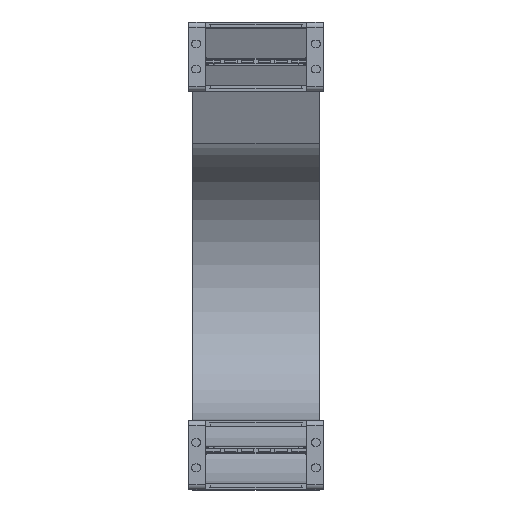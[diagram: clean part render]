
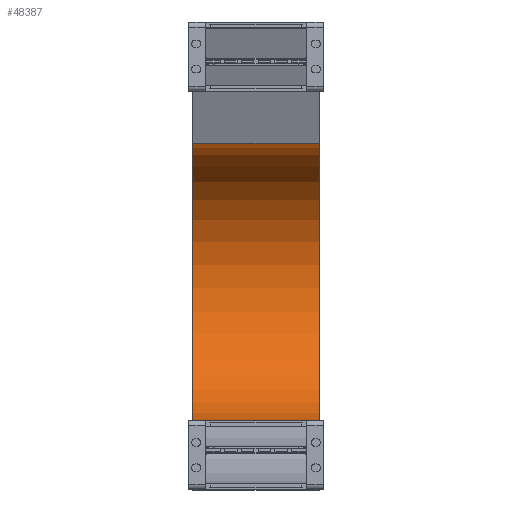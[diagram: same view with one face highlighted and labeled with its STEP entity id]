
A CAD part, top view. The second image highlights one B-rep face of the part: STEP entity #48387.
In plain terms, the highlighted cylindrical face has radius 82.5 mm (diameter 165 mm), a partial arc.
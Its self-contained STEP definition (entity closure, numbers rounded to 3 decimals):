
#47539=DIRECTION('',(-1.,0.,0.));
#47540=VECTOR('',#47539,75.);
#47541=CARTESIAN_POINT('',(37.5,41.,-400.));
#47542=LINE('',#47541,#47540);
#47553=DIRECTION('',(-1.,0.,0.));
#47554=VECTOR('',#47553,75.);
#47555=CARTESIAN_POINT('',(37.5,205.689,-407.16));
#47556=LINE('',#47555,#47554);
#47560=CARTESIAN_POINT('',(37.5,123.5,-400.));
#47561=DIRECTION('',(-1.,0.,0.));
#47562=DIRECTION('',(0.,0.996,-0.087));
#47563=AXIS2_PLACEMENT_3D('',#47560,#47561,#47562);
#47639=CARTESIAN_POINT('',(-37.5,123.5,-400.));
#47640=DIRECTION('',(-1.,0.,0.));
#47641=DIRECTION('',(0.,0.996,-0.087));
#47642=AXIS2_PLACEMENT_3D('',#47639,#47640,#47641);
#47761=CARTESIAN_POINT('',(37.5,205.689,-407.16));
#47762=CARTESIAN_POINT('',(-37.5,205.689,-407.16));
#47763=VERTEX_POINT('',#47761);
#47764=VERTEX_POINT('',#47762);
#47785=CARTESIAN_POINT('',(37.5,41.,-400.));
#47786=CARTESIAN_POINT('',(-37.5,41.,-400.));
#47787=VERTEX_POINT('',#47785);
#47788=VERTEX_POINT('',#47786);
#48373=CARTESIAN_POINT('',(1.,123.5,-400.));
#48374=DIRECTION('',(-1.,0.,0.));
#48375=DIRECTION('',(0.,-0.996,0.087));
#48376=AXIS2_PLACEMENT_3D('',#48373,#48374,#48375);
#48377=CYLINDRICAL_SURFACE('',#48376,82.5);
#48379=ORIENTED_EDGE('',*,*,#48378,.F.);
#48381=ORIENTED_EDGE('',*,*,#48380,.T.);
#48382=ORIENTED_EDGE('',*,*,#48356,.T.);
#48384=ORIENTED_EDGE('',*,*,#48383,.F.);
#48385=EDGE_LOOP('',(#48379,#48381,#48382,#48384));
#48386=FACE_OUTER_BOUND('',#48385,.F.);
#47564=CIRCLE('',#47563,82.5);
#47643=CIRCLE('',#47642,82.5);
#48356=EDGE_CURVE('',#47787,#47788,#47542,.T.);
#48378=EDGE_CURVE('',#47763,#47764,#47556,.T.);
#48380=EDGE_CURVE('',#47763,#47787,#47564,.T.);
#48383=EDGE_CURVE('',#47764,#47788,#47643,.T.);
#48387=ADVANCED_FACE('',(#48386),#48377,.F.);
